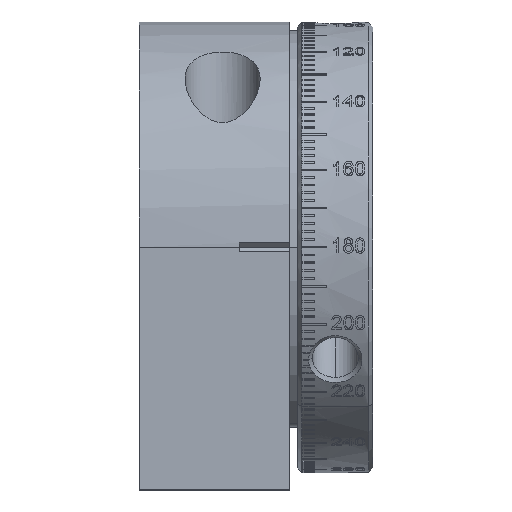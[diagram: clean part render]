
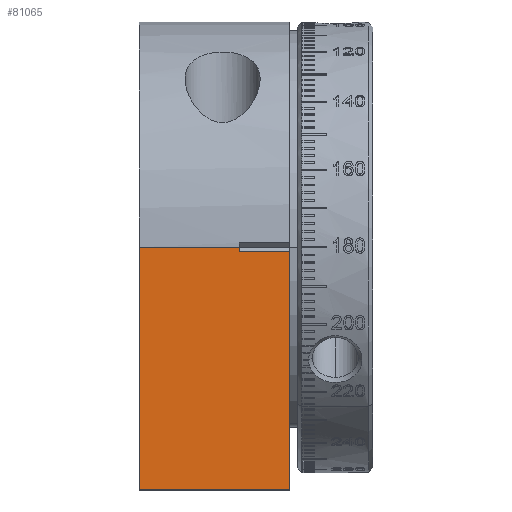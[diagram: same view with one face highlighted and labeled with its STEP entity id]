
A CAD part, top view. The second image highlights one B-rep face of the part: STEP entity #81065.
In plain terms, the highlighted planar face has unit normal (0, 0, 1).
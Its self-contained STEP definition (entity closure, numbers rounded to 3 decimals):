
#76 = LINE ( 'NONE', #33604, #84673 ) ;
#3083 = CARTESIAN_POINT ( 'NONE',  ( 12., -0.5, 0. ) ) ;
#4759 = CARTESIAN_POINT ( 'NONE',  ( 12., 0., 0. ) ) ;
#6265 = VERTEX_POINT ( 'NONE', #90721 ) ;
#8401 = ORIENTED_EDGE ( 'NONE', *, *, #60866, .T. ) ;
#14150 = CARTESIAN_POINT ( 'NONE',  ( 0., 0., 0. ) ) ;
#23655 = CARTESIAN_POINT ( 'NONE',  ( 18., 0., 0. ) ) ;
#24275 = DIRECTION ( 'NONE',  ( -1., 0., 0. ) ) ;
#27607 = LINE ( 'NONE', #103381, #44668 ) ;
#29545 = VECTOR ( 'NONE', #63768, 1000. ) ;
#30207 = CARTESIAN_POINT ( 'NONE',  ( 18., 0., 0. ) ) ;
#30279 = CARTESIAN_POINT ( 'NONE',  ( 18., -29., 0. ) ) ;
#33510 = DIRECTION ( 'NONE',  ( 0., 0., 1. ) ) ;
#33604 = CARTESIAN_POINT ( 'NONE',  ( 18., -29., 0. ) ) ;
#37962 = ORIENTED_EDGE ( 'NONE', *, *, #86508, .F. ) ;
#38373 = DIRECTION ( 'NONE',  ( 0., -1., 0. ) ) ;
#44668 = VECTOR ( 'NONE', #60103, 1000. ) ;
#44705 = VECTOR ( 'NONE', #38373, 1000. ) ;
#47301 = CARTESIAN_POINT ( 'NONE',  ( 0., 0., 0. ) ) ;
#53129 = DIRECTION ( 'NONE',  ( 1., 0., 0. ) ) ;
#55439 = LINE ( 'NONE', #14150, #44705 ) ;
#56232 = CARTESIAN_POINT ( 'NONE',  ( 12., -0.5, 0. ) ) ;
#58838 = FACE_OUTER_BOUND ( 'NONE', #92604, .T. ) ;
#60103 = DIRECTION ( 'NONE',  ( 0., 1., 0. ) ) ;
#60459 = CARTESIAN_POINT ( 'NONE',  ( 18., 0., 0. ) ) ;
#60866 = EDGE_CURVE ( 'NONE', #104343, #80174, #87270, .T. ) ;
#61083 = EDGE_CURVE ( 'NONE', #80174, #75110, #55439, .T. ) ;
#61784 = ORIENTED_EDGE ( 'NONE', *, *, #61083, .T. ) ;
#63768 = DIRECTION ( 'NONE',  ( 0., -1., 0. ) ) ;
#70331 = EDGE_CURVE ( 'NONE', #99230, #75110, #76, .T. ) ;
#71048 = ORIENTED_EDGE ( 'NONE', *, *, #83422, .F. ) ;
#75110 = VERTEX_POINT ( 'NONE', #92010 ) ;
#76371 = ORIENTED_EDGE ( 'NONE', *, *, #70331, .F. ) ;
#78371 = LINE ( 'NONE', #3083, #103004 ) ;
#79583 = DIRECTION ( 'NONE',  ( -1., 0., 0. ) ) ;
#80174 = VERTEX_POINT ( 'NONE', #47301 ) ;
#81065 = ADVANCED_FACE ( 'NONE', ( #58838 ), #108724, .T. ) ;
#83422 = EDGE_CURVE ( 'NONE', #87866, #6265, #78371, .T. ) ;
#84673 = VECTOR ( 'NONE', #24275, 1000. ) ;
#86508 = EDGE_CURVE ( 'NONE', #6265, #99230, #105430, .T. ) ;
#87270 = LINE ( 'NONE', #60459, #97272 ) ;
#87866 = VERTEX_POINT ( 'NONE', #56232 ) ;
#90721 = CARTESIAN_POINT ( 'NONE',  ( 18., -0.5, 0. ) ) ;
#92010 = CARTESIAN_POINT ( 'NONE',  ( 0., -29., 0. ) ) ;
#92604 = EDGE_LOOP ( 'NONE', ( #71048, #92704, #8401, #61784, #76371, #37962 ) ) ;
#92704 = ORIENTED_EDGE ( 'NONE', *, *, #103884, .T. ) ;
#95869 = AXIS2_PLACEMENT_3D ( 'NONE', #23655, #33510, #98901 ) ;
#97272 = VECTOR ( 'NONE', #79583, 1000. ) ;
#98901 = DIRECTION ( 'NONE',  ( 0., -1., 0. ) ) ;
#99230 = VERTEX_POINT ( 'NONE', #30279 ) ;
#103004 = VECTOR ( 'NONE', #53129, 1000. ) ;
#103381 = CARTESIAN_POINT ( 'NONE',  ( 12., 0.5, 0. ) ) ;
#103884 = EDGE_CURVE ( 'NONE', #87866, #104343, #27607, .T. ) ;
#104343 = VERTEX_POINT ( 'NONE', #4759 ) ;
#105430 = LINE ( 'NONE', #30207, #29545 ) ;
#108724 = PLANE ( 'NONE',  #95869 ) ;
